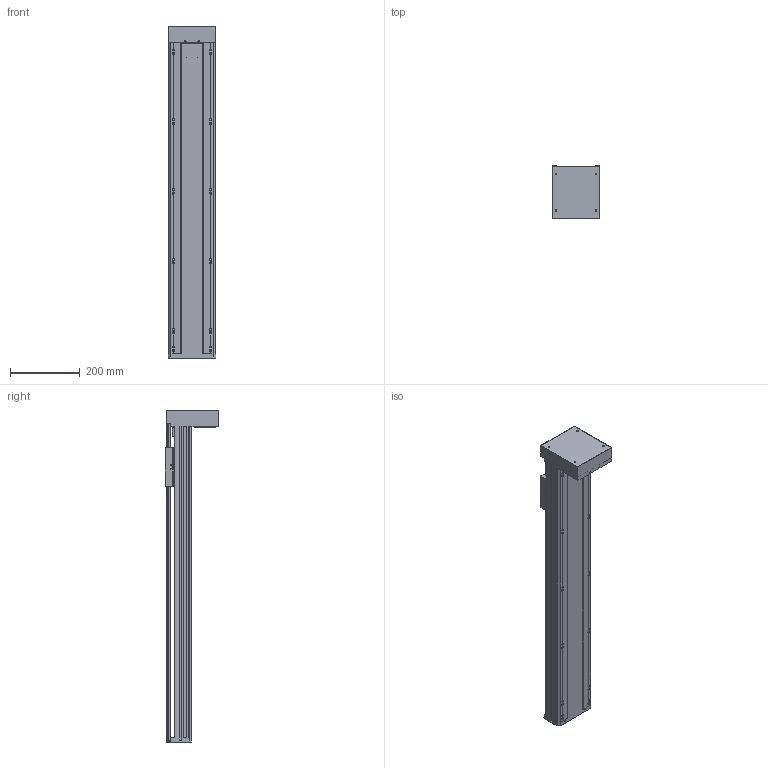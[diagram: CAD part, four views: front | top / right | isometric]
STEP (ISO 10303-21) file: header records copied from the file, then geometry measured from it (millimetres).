
FILE_DESCRIPTION(/* description */ (''),/* implementation_level */ '2;1');
FILE_NAME(/* name */ 'TKA136-FD-700_asm1.stp',/* time_stamp */ '2016-05-07T09:36:07+08:00',/* author */ (''),/* organization */ (''),/* preprocessor_version */ 'ST-DEVELOPER v15',/* originating_system */ 'SIEMENS PLM Software NX 8.5',/* authorisation */ '');
FILE_SCHEMA (('AUTOMOTIVE_DESIGN { 1 0 10303 214 3 1 1 1 }'));
Length unit declared in the file: millimetre
Products named in the file (3): 100-02; 100-01; TKA136-FD-700_asm1
Assembly tree (2 placements, depth 2):
  TKA136-FD-700_asm1
    100-01
    100-02
Bounding box: 136 x 152 x 950 mm (x, y, z)
Volume: 3041297.7 mm3; surface area: 1181073 mm2
Topology: 2 solids, 13 shells, 944 faces, 2655 edges, 1711 vertices
Faces by surface type: cylinder 455, plane 424, cone 65
Full cylindrical faces by diameter (mm): 3 x2, 3.3 x13, 4 x4, 4.2 x8, 4.5 x14, 5 x12, 5.5 x26, 6.6 x16, 8 x12, 10 x9, 10.5 x12, 11 x4, 11.6 x1, 12 x9, 15 x3, 16 x5, 17 x1, 24 x5, 26 x1, 28 x1, 46 x1, 50 x2
Entity records: 31914 total; most frequent: CARTESIAN_POINT 8360, DIRECTION 4930, ORIENTED_EDGE 4658, EDGE_CURVE 2329, AXIS2_PLACEMENT_3D 1867, VERTEX_POINT 1616, EDGE_LOOP 1334, LINE 1196
